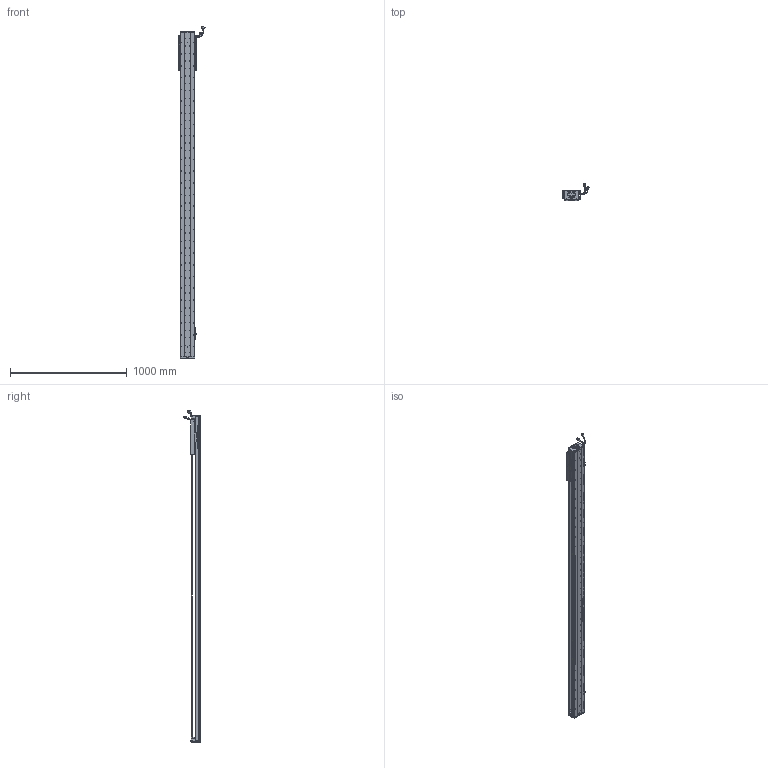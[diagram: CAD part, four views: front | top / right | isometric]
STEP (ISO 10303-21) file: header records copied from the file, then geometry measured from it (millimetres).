
FILE_DESCRIPTION (( 'STEP AP203' ), '1' );
FILE_NAME ('Z4-RY120D-1-L500-B-K.SLDASM_2400.step', '2021-05-17T06:10:20', ( '盈信电脑' ), ( '东莞市道滘镇水果街19号' ), 'SwSTEP 2.0', 'SolidWorks 2016', '' );
FILE_SCHEMA (( 'CONFIG_CONTROL_DESIGN' ));
Length unit declared in the file: millimetre
Products named in the file (37): COVER-Part-1; SCALE; Z-RY120D詩湍狟揤裔; LABEL-Part-1; 覜茼ん672; PSLH080_PSLF2; SCREW-M1.6; SCREW-M1.7-1; 榋妏寠巭燃_暯_M2_2; 140蚥薯蝶輸; Z4-RY120-500-倰第菁釱_2400; SCREW-M1.6-3; HARNESS; SCALE-Part-2; SHIELDPLATE; HOLDER0; SCALE-Part-1; SCREW-M1.6-1; LABEL; SCREW-M1.7; Z4-RY120D-1-L500-B-K.SLDASM_2400; Z-120詩湍傷裔啣; 080黍杅芛假蚾釱21遴; 140雄赽晤鎢ん堤盄; SEAL; Z4-RY120-L500詩湍100mm遵_2400; SCREW-M1.6-2; 672嫖萇羲壽假蚾釱; HARNESS-Part-1; HARNESS-Part-2; 120-Z-臏賑輸盄裔(21遴); COVER; RY100FB-遵嫖萇覜茼え; Z4-RY120铝滑块（21款）; PBU_SHEET; SEAL-Part-1; Z-RY120D詩湍奻揤裔
Assembly tree (43 placements, depth 4):
  Z4-RY120D-1-L500-B-K.SLDASM_2400
    Z4-RY120-500-倰第菁釱_2400
    覜茼ん672  x3
    672嫖萇羲壽假蚾釱  x2
    Z4-RY120铝滑块（21款）
    PSLH080_PSLF2
      SCALE
        SCALE-Part-1
        SCALE-Part-2
      HARNESS
        HARNESS-Part-1
        HARNESS-Part-2
      LABEL
        LABEL-Part-1
      COVER
        COVER-Part-1
      SEAL
        SEAL-Part-1
      榋妏寠巭燃_暯_M2_2
      SHIELDPLATE
      SCREW-M1.7
      SCREW-M1.7-1
      PBU_SHEET
      SCREW-M1.6
      SCREW-M1.6-1
      SCREW-M1.6-2
      SCREW-M1.6-3
      HOLDER0
    080黍杅芛假蚾釱21遴
    120-Z-臏賑輸盄裔(21遴)
    140雄赽晤鎢ん堤盄
    140蚥薯蝶輸  x2
    RY100FB-遵嫖萇覜茼え
    Z-120詩湍傷裔啣  x2
    Z-RY120D詩湍奻揤裔  x2
    Z-RY120D詩湍狟揤裔  x2
    Z4-RY120-L500詩湍100mm遵_2400
Bounding box: 222.83 x 140.94 x 2838.99 mm (x, y, z)
Volume: 6786890.1 mm3; surface area: 2343631 mm2
Topology: 38 solids, 38 shells, 3773 faces, 10772 edges, 6792 vertices
Faces by surface type: cylinder 1996, plane 1257, cone 398, torus 69, bspline 53
Entity records: 127285 total; most frequent: CARTESIAN_POINT 39102, ORIENTED_EDGE 18272, DIRECTION 16738, EDGE_CURVE 9136, AXIS2_PLACEMENT_3D 6202, VERTEX_POINT 5912, LINE 4334, VECTOR 4334
